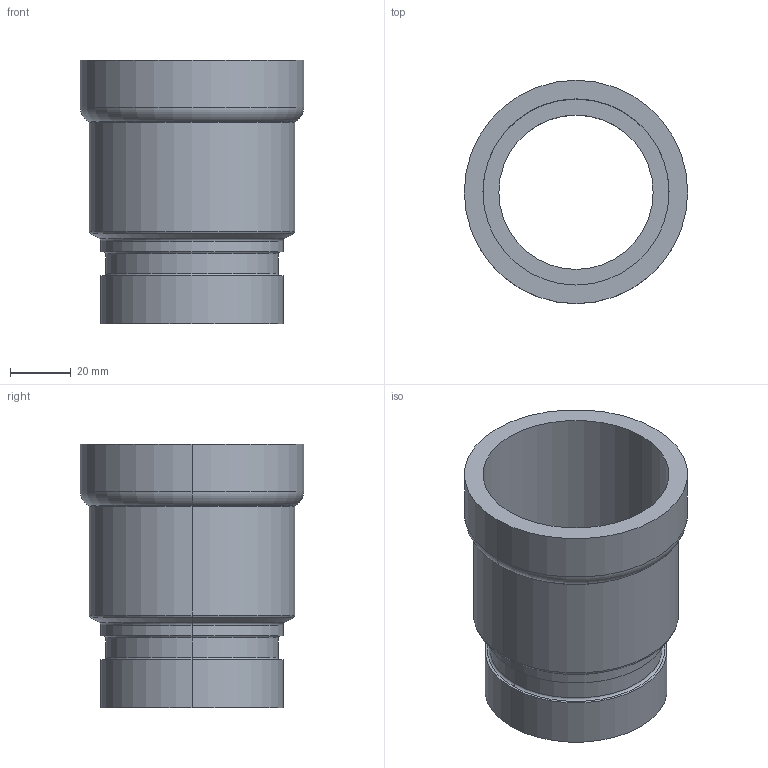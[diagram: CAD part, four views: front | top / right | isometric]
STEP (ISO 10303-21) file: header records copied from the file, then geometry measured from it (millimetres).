
FILE_DESCRIPTION(('Creo Elements/Direct Modeling STEP Export'),'2;1');
FILE_NAME('C9448_2.stp','2020-07-20T16:18:13',(''),(''),'PTC Creo Elements/Direct Modeling STEP processor for AP214 (Solid Model)','PTC Creo Elements/Direct Modeling 19.0C 15-Aug-2015 (C) Parametric Technology GmbH','');
FILE_SCHEMA(('AUTOMOTIVE_DESIGN { 1 0 10303 214 1 1 1 1 }'));
Length unit declared in the file: millimetre
Products named in the file (2): C9448_2
Assembly tree (1 placements, depth 2):
  C9448_2
    C9448_2
Bounding box: 73.8 x 73.8 x 87.12 mm (x, y, z)
Volume: 75281.5 mm3; surface area: 38072.1 mm2
Topology: 1 solids, 1 shells, 33 faces, 70 edges, 42 vertices
Faces by surface type: cylinder 14, torus 12, plane 5, cone 2
Entity records: 840 total; most frequent: DIRECTION 148, ORIENTED_EDGE 140, CARTESIAN_POINT 124, EDGE_CURVE 70, AXIS2_PLACEMENT_3D 66, VERTEX_POINT 42, EDGE_LOOP 38, FACE_OUTER_BOUND 33
